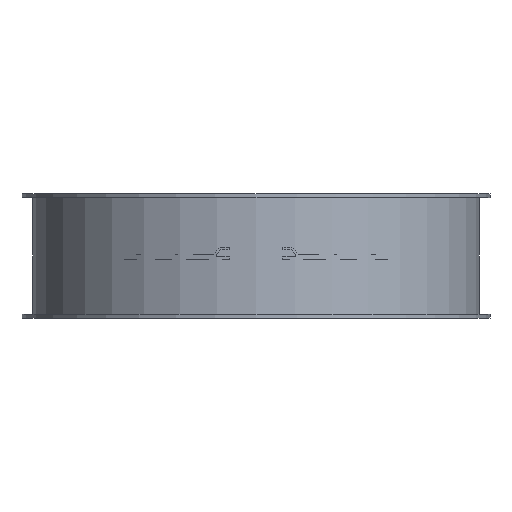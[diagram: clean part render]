
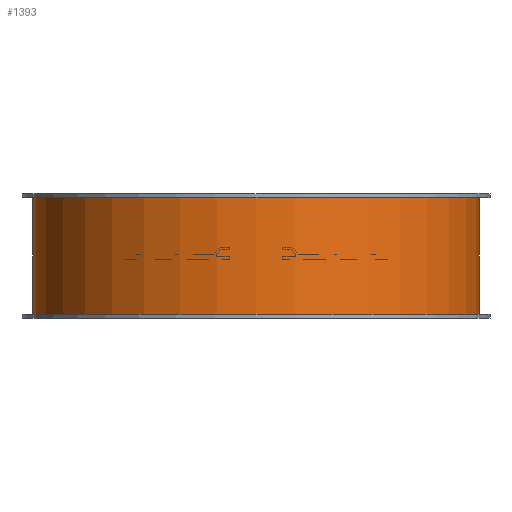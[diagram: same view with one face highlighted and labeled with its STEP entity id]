
A CAD part, left-side view. The second image highlights one B-rep face of the part: STEP entity #1393.
In plain terms, the highlighted cylindrical face has radius 126 mm (diameter 252 mm), a full revolution.
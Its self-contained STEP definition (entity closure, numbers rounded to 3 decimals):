
#938=CARTESIAN_POINT('',(-126.,0.,-33.0));
#939=VERTEX_POINT('',#938);
#940=CARTESIAN_POINT('',(0.0,0.0,-33.0));
#941=DIRECTION('',(0.0,0.0,1.0));
#942=DIRECTION('',(-1.0,0.0,0.0));
#943=AXIS2_PLACEMENT_3D('',#940,#941,#942);
#944=CIRCLE('',#943,126.);
#945=EDGE_CURVE('',#939,#939,#944,.T.);
#986=CARTESIAN_POINT('',(126.,0.,33.0));
#987=VERTEX_POINT('',#986);
#988=CARTESIAN_POINT('',(0.0,0.0,33.0));
#989=DIRECTION('',(0.0,0.0,-1.0));
#990=DIRECTION('',(-1.0,0.0,0.0));
#991=AXIS2_PLACEMENT_3D('',#988,#989,#990);
#992=CIRCLE('',#991,126.);
#993=EDGE_CURVE('',#987,#987,#992,.T.);
#1044=CARTESIAN_POINT('',(124.403,-20.,8.));
#1045=VERTEX_POINT('',#1044);
#1046=CARTESIAN_POINT('',(124.403,20.,8.));
#1047=VERTEX_POINT('',#1046);
#1048=CARTESIAN_POINT('',(0.0,0.0,8.));
#1049=DIRECTION('',(0.0,0.0,1.0));
#1050=DIRECTION('',(-1.0,0.0,0.0));
#1051=AXIS2_PLACEMENT_3D('',#1048,#1049,#1050);
#1052=CIRCLE('',#1051,126.);
#1053=EDGE_CURVE('',#1045,#1047,#1052,.T.);
#1088=CARTESIAN_POINT('',(123.495,-25.0,3.));
#1089=VERTEX_POINT('',#1088);
#1090=CARTESIAN_POINT('',(0.0,0.0,28.));
#1091=DIRECTION('',(0.0,-0.707,0.707));
#1092=DIRECTION('',(0.0,-0.707,-0.707));
#1093=AXIS2_PLACEMENT_3D('',#1090,#1091,#1092);
#1094=ELLIPSE('',#1093,178.191,126.);
#1095=EDGE_CURVE('',#1089,#1045,#1094,.T.);
#1120=CARTESIAN_POINT('',(123.495,25.0,3.));
#1121=VERTEX_POINT('',#1120);
#1122=CARTESIAN_POINT('',(0.0,0.0,28.));
#1123=DIRECTION('',(0.0,0.707,0.707));
#1124=DIRECTION('',(0.0,-0.707,0.707));
#1125=AXIS2_PLACEMENT_3D('',#1122,#1123,#1124);
#1126=ELLIPSE('',#1125,178.191,126.);
#1127=EDGE_CURVE('',#1047,#1121,#1126,.T.);
#1152=CARTESIAN_POINT('',(0.,-126.,3.));
#1153=VERTEX_POINT('',#1152);
#1154=CARTESIAN_POINT('',(0.0,0.0,3.));
#1155=DIRECTION('',(0.0,0.0,1.0));
#1156=DIRECTION('',(-1.0,0.0,0.0));
#1157=AXIS2_PLACEMENT_3D('',#1154,#1155,#1156);
#1158=CIRCLE('',#1157,126.);
#1159=EDGE_CURVE('',#1153,#1089,#1158,.T.);
#1184=CARTESIAN_POINT('',(0.,126.,3.));
#1185=VERTEX_POINT('',#1184);
#1186=CARTESIAN_POINT('',(0.0,0.0,3.));
#1187=DIRECTION('',(0.0,0.0,1.0));
#1188=DIRECTION('',(-1.0,0.0,0.0));
#1189=AXIS2_PLACEMENT_3D('',#1186,#1187,#1188);
#1190=CIRCLE('',#1189,126.);
#1191=EDGE_CURVE('',#1121,#1185,#1190,.T.);
#1216=CARTESIAN_POINT('',(0.,126.,-3.));
#1217=VERTEX_POINT('',#1216);
#1218=CARTESIAN_POINT('',(0.,-126.,-3.));
#1219=VERTEX_POINT('',#1218);
#1220=CARTESIAN_POINT('',(0.0,0.0,-3.));
#1221=DIRECTION('',(0.0,0.0,-1.0));
#1222=DIRECTION('',(-1.0,0.0,0.0));
#1223=AXIS2_PLACEMENT_3D('',#1220,#1221,#1222);
#1224=CIRCLE('',#1223,126.);
#1225=EDGE_CURVE('',#1217,#1219,#1224,.T.);
#1257=CARTESIAN_POINT('',(0.0,126.,-3.));
#1258=DIRECTION('',(0.0,0.0,1.0));
#1259=VECTOR('',#1258,6.);
#1260=LINE('',#1257,#1259);
#1261=EDGE_CURVE('',#1217,#1185,#1260,.T.);
#1279=CARTESIAN_POINT('',(0.0,-126.,-3.));
#1280=DIRECTION('',(0.0,0.0,1.0));
#1281=VECTOR('',#1280,6.);
#1282=LINE('',#1279,#1281);
#1283=EDGE_CURVE('',#1219,#1153,#1282,.T.);
#1372=CARTESIAN_POINT('',(0.0,0.0,0.0));
#1373=DIRECTION('',(0.0,0.0,1.0));
#1374=DIRECTION('',(-1.0,0.0,0.0));
#1375=AXIS2_PLACEMENT_3D('',#1372,#1373,#1374);
#1376=CYLINDRICAL_SURFACE('',#1375,126.);
#1377=ORIENTED_EDGE('',*,*,#945,.T.);
#1378=EDGE_LOOP('',(#1377));
#1379=FACE_OUTER_BOUND('',#1378,.T.);
#1380=ORIENTED_EDGE('',*,*,#993,.T.);
#1381=EDGE_LOOP('',(#1380));
#1382=FACE_BOUND('',#1381,.T.);
#1383=ORIENTED_EDGE('',*,*,#1225,.T.);
#1384=ORIENTED_EDGE('',*,*,#1283,.T.);
#1385=ORIENTED_EDGE('',*,*,#1159,.T.);
#1386=ORIENTED_EDGE('',*,*,#1095,.T.);
#1387=ORIENTED_EDGE('',*,*,#1053,.T.);
#1388=ORIENTED_EDGE('',*,*,#1127,.T.);
#1389=ORIENTED_EDGE('',*,*,#1191,.T.);
#1390=ORIENTED_EDGE('',*,*,#1261,.F.);
#1391=EDGE_LOOP('',(#1383,#1384,#1385,#1386,#1387,#1388,#1389,#1390));
#1392=FACE_BOUND('',#1391,.T.);
#1393=ADVANCED_FACE('',(#1379,#1382,#1392),#1376,.T.);
